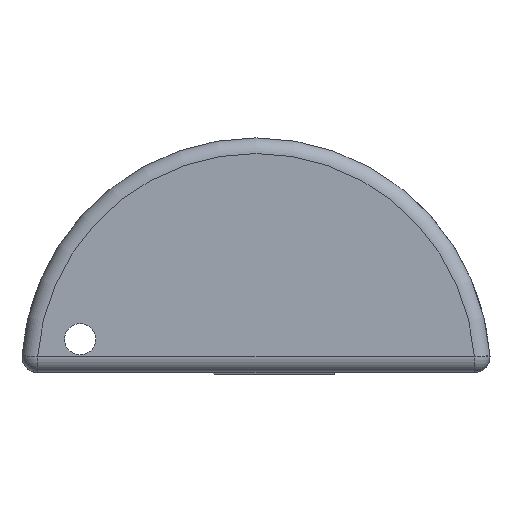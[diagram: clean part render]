
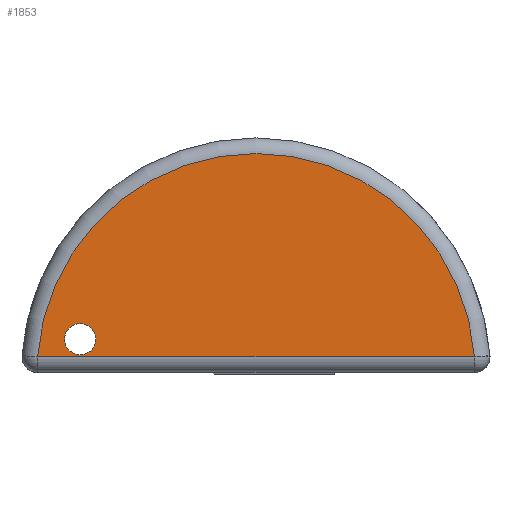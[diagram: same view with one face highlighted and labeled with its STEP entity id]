
A CAD part, top view. The second image highlights one B-rep face of the part: STEP entity #1853.
In plain terms, the highlighted planar face has unit normal (0, 0, 1).
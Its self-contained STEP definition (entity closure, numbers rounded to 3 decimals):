
#113 = DIRECTION ( 'NONE',  ( 1., 0., 0. ) ) ;
#296 = DIRECTION ( 'NONE',  ( 1., 0., 0. ) ) ;
#394 = CARTESIAN_POINT ( 'NONE',  ( 30., -3.25, 125. ) ) ;
#449 = CARTESIAN_POINT ( 'NONE',  ( 27.928, -3.25, 125. ) ) ;
#514 = EDGE_LOOP ( 'NONE', ( #3856, #1705 ) ) ;
#521 = CIRCLE ( 'NONE', #2366, 28. ) ;
#553 = CARTESIAN_POINT ( 'NONE',  ( 0., -5.25, 125. ) ) ;
#680 = PLANE ( 'NONE',  #2720 ) ;
#704 = DIRECTION ( 'NONE',  ( 1., 0., 0. ) ) ;
#862 = DIRECTION ( 'NONE',  ( 1., 0., 0. ) ) ;
#1101 = ORIENTED_EDGE ( 'NONE', *, *, #3761, .T. ) ;
#1298 = LINE ( 'NONE', #394, #2295 ) ;
#1432 = EDGE_CURVE ( 'NONE', #5114, #2343, #1298, .T. ) ;
#1523 = DIRECTION ( 'NONE',  ( 1., 0., 0. ) ) ;
#1567 = EDGE_CURVE ( 'NONE', #2800, #4643, #4247, .T. ) ;
#1627 = EDGE_LOOP ( 'NONE', ( #1685, #1101 ) ) ;
#1685 = ORIENTED_EDGE ( 'NONE', *, *, #1432, .T. ) ;
#1705 = ORIENTED_EDGE ( 'NONE', *, *, #4670, .F. ) ;
#1853 = ADVANCED_FACE ( 'NONE', ( #4536, #2827 ), #680, .T. ) ;
#2295 = VECTOR ( 'NONE', #862, 1000. ) ;
#2343 = VERTEX_POINT ( 'NONE', #449 ) ;
#2366 = AXIS2_PLACEMENT_3D ( 'NONE', #553, #3858, #113 ) ;
#2720 = AXIS2_PLACEMENT_3D ( 'NONE', #2798, #3185, #296 ) ;
#2798 = CARTESIAN_POINT ( 'NONE',  ( 0., -5.25, 125. ) ) ;
#2800 = VERTEX_POINT ( 'NONE', #3222 ) ;
#2827 = FACE_OUTER_BOUND ( 'NONE', #1627, .T. ) ;
#3185 = DIRECTION ( 'NONE',  ( 0., 0., 1. ) ) ;
#3222 = CARTESIAN_POINT ( 'NONE',  ( -20.5, -1., 125. ) ) ;
#3442 = CARTESIAN_POINT ( 'NONE',  ( -27.928, -3.25, 125. ) ) ;
#3730 = DIRECTION ( 'NONE',  ( 0., 0., 1. ) ) ;
#3761 = EDGE_CURVE ( 'NONE', #2343, #5114, #521, .T. ) ;
#3856 = ORIENTED_EDGE ( 'NONE', *, *, #1567, .F. ) ;
#3858 = DIRECTION ( 'NONE',  ( 0., 0., 1. ) ) ;
#4010 = CARTESIAN_POINT ( 'NONE',  ( -24.5, -1., 125. ) ) ;
#4057 = CARTESIAN_POINT ( 'NONE',  ( -22.5, -1., 125. ) ) ;
#4226 = CIRCLE ( 'NONE', #4581, 2. ) ;
#4247 = CIRCLE ( 'NONE', #4961, 2. ) ;
#4497 = DIRECTION ( 'NONE',  ( 0., 0., 1. ) ) ;
#4532 = CARTESIAN_POINT ( 'NONE',  ( -22.5, -1., 125. ) ) ;
#4536 = FACE_BOUND ( 'NONE', #514, .T. ) ;
#4581 = AXIS2_PLACEMENT_3D ( 'NONE', #4532, #3730, #704 ) ;
#4643 = VERTEX_POINT ( 'NONE', #4010 ) ;
#4670 = EDGE_CURVE ( 'NONE', #4643, #2800, #4226, .T. ) ;
#4961 = AXIS2_PLACEMENT_3D ( 'NONE', #4057, #4497, #1523 ) ;
#5114 = VERTEX_POINT ( 'NONE', #3442 ) ;
